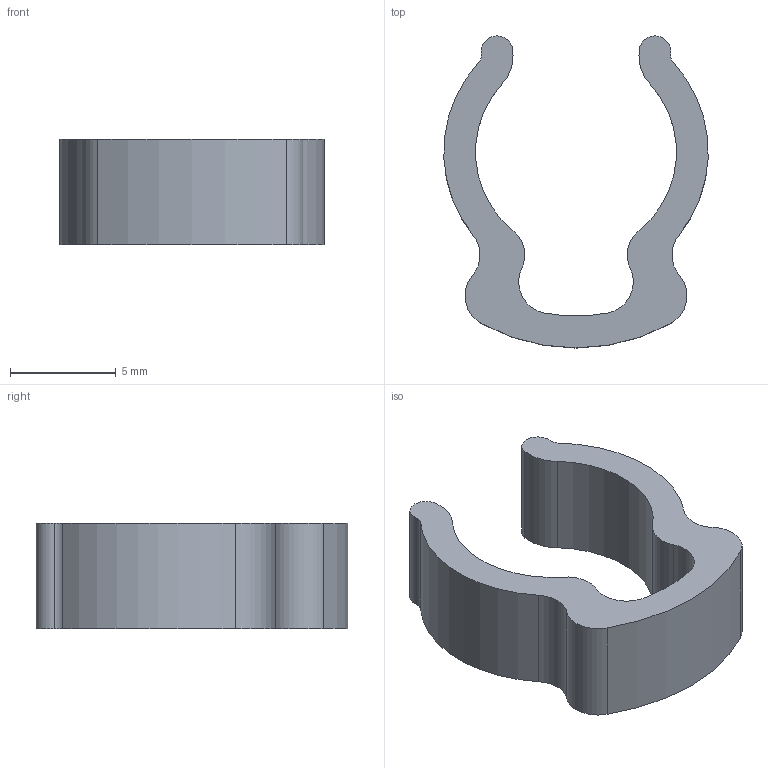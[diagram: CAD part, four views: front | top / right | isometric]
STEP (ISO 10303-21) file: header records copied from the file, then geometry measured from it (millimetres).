
FILE_DESCRIPTION((''),'2;1');
FILE_NAME('D:\Data\Documents\Studium\Faecher\10.Semester\Studienarbeit\Design\Kabelklemme.stp','2016-08-24T12:55:17',('Fabian'),(''),'Autodesk Inventor 2013','Autodesk Inventor 2013','');
FILE_SCHEMA(('AUTOMOTIVE_DESIGN { 1 0 10303 214 1 1 1 1 }'));
Length unit declared in the file: millimetre
Products named in the file (1): Kabelklemme
Bounding box: 12.49 x 14.74 x 5 mm (x, y, z)
Volume: 297.5 mm3; surface area: 486.9 mm2
Topology: 1 solids, 1 shells, 22 faces, 78 edges, 76 vertices
Faces by surface type: cylinder 20, plane 2
Entity records: 977 total; most frequent: DIRECTION 172, CARTESIAN_POINT 167, ORIENTED_EDGE 120, AXIS2_PLACEMENT_3D 71, EDGE_CURVE 60, CIRCLE 48, VERTEX_POINT 40, VECTOR 30
